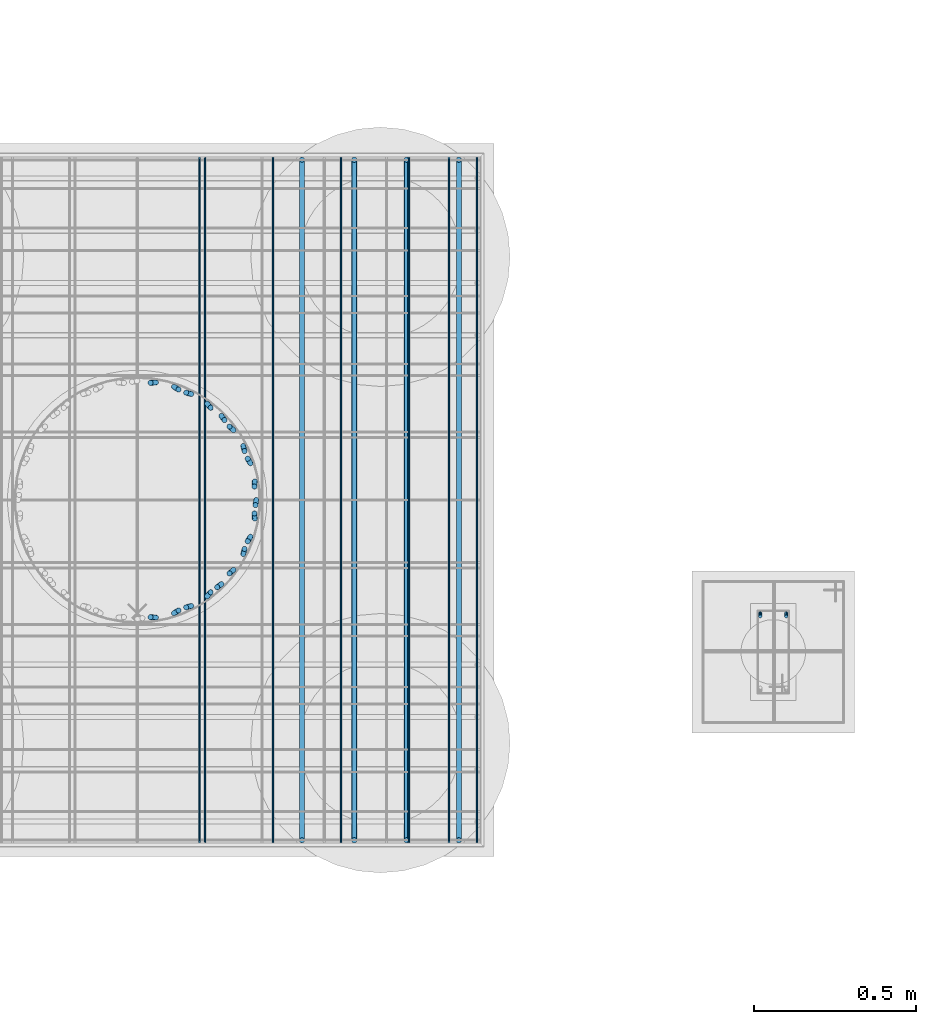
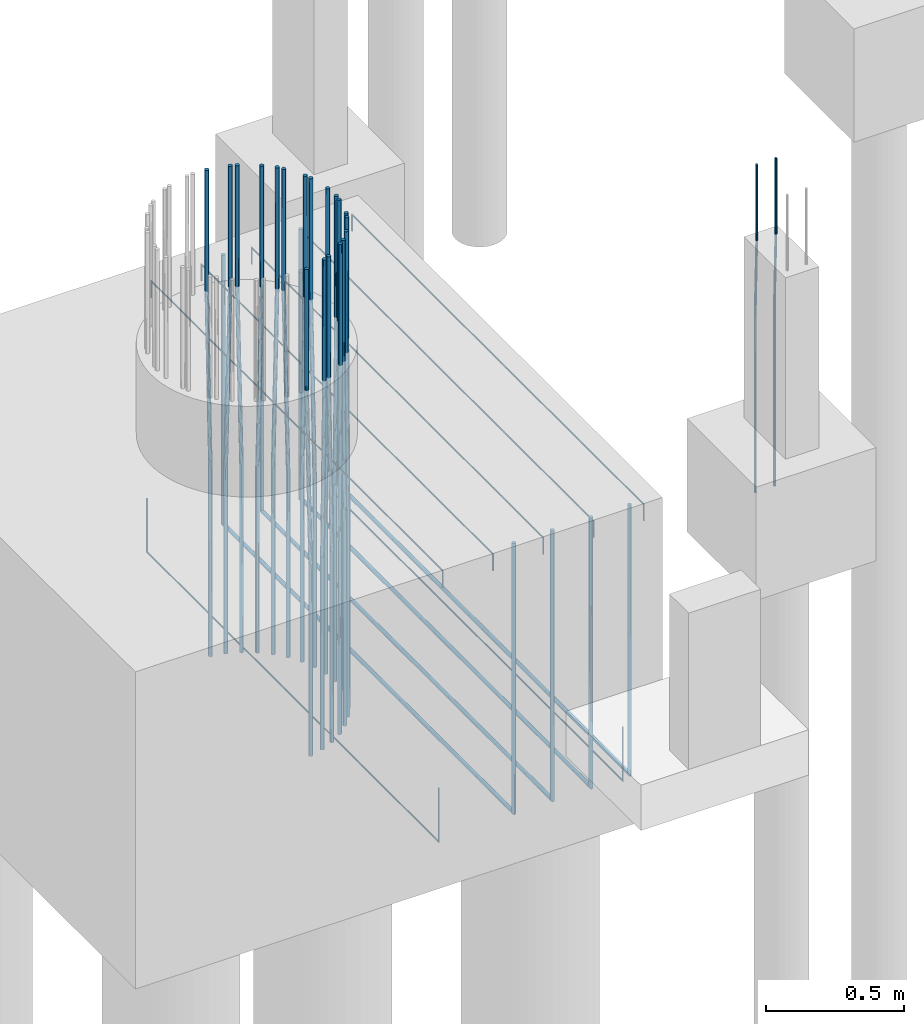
# One storey, part 15 of 119: 32 reinforcing bars.
"""IFC4 building model written with IfcOpenShell, lengths in centimetres."""

from ifc_helpers import new_model, entity, si_unit, derived_unit, frame, origin_with_axes, place, context, project, spatial, element, save


model = new_model("IFC4")

# Units and contexts
model_context = context("Model", 3, precision=1e-05, world=origin_with_axes(), identifier="Body")
ifc_project = project(units=[si_unit("LENGTHUNIT", "METRE", prefix="CENTI"), si_unit("VOLUMEUNIT", "CUBIC_METRE"), si_unit("AREAUNIT", "SQUARE_METRE"), si_unit("POWERUNIT", "WATT"), si_unit("LUMINOUSFLUXUNIT", "LUMEN"), si_unit("ELECTRICCURRENTUNIT", "AMPERE"), si_unit("PRESSUREUNIT", "PASCAL", prefix="KILO"), si_unit("MASSUNIT", "GRAM", prefix="KILO"), si_unit("PLANEANGLEUNIT", "RADIAN"), derived_unit("VOLUMETRICFLOWRATEUNIT", [(si_unit("LENGTHUNIT", "METRE"), 3), (si_unit("TIMEUNIT", "SECOND"), -1)])], contexts=[model_context])

# Site, building, storey
site_placement = place(None, frame((-4000.0, 0.0, 0.0), z_axis=(0.0, 0.0, 1.0), x_axis=(1.0, 0.0, 0.0)))
site = spatial("IfcSite", under=ifc_project, at=site_placement, Name="PADRÃO")
building_placement = place(site_placement, frame((0.0, 0.0, -14.0)))
building = spatial("IfcBuilding", under=site, at=building_placement, Name="CRECHE PRÉ-ESCOLA TIPO 2")
storey_placement = place(building_placement, origin_with_axes())
storey = spatial("IfcBuildingStorey", under=building, at=storey_placement, Name="FUNDAÇÃO", CompositionType="ELEMENT", Elevation=-14.0)

# Reinforcing bars
for number, where, z_axis, x_axis, name in (
    (1, (2404.50727272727, 229.39, -139.213841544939), (0.0, 0.0, 1.0), (1.0, 0.0, 0.0), "P151 - Blocos (distribuição)"),
    (2, (2481.41636363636, 229.39, -139.213841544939), (0.0, 0.0, 1.0), (1.0, 0.0, 0.0), "P151 - Blocos (distribuição)"),
):
    element("IfcReinforcingBar", number, at=place(storey_placement, frame(where, z_axis=z_axis, x_axis=x_axis)), inside=storey, Name=name, BarLength=0.0, CrossSectionArea=3.1172453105e-05, NominalDiameter=0.63, PredefinedType="MAIN", context=model_context, shape_type="AdvancedSweptSolid", body=[
        entity("IfcSweptDiskSolid", entity("IfcCompositeCurve", [entity("IfcCompositeCurveSegment", "CONTINUOUS", True, entity("IfcPolyline", [entity("IfcCartesianPoint", [0.0, 105.435, 0.0]), entity("IfcCartesianPoint", [0.0, 105.435, -23.7311584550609])])), entity("IfcCompositeCurveSegment", "CONTINUOUS", True, entity("IfcPolyline", [entity("IfcCartesianPoint", [0.0, 105.435, -23.7311584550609]), entity("IfcCartesianPoint", [0.0, -105.435, -23.7311584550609])])), entity("IfcCompositeCurveSegment", "CONTINUOUS", True, entity("IfcPolyline", [entity("IfcCartesianPoint", [0.0, -105.435, -23.7311584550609]), entity("IfcCartesianPoint", [0.0, -105.435, 0.0])]))], False), 0.315),
    ])
for number, where, z_axis, x_axis, name in (
    (3, (2436.08, 229.39, -42.2), (0.0, 0.0, 1.0), (1.0, 0.0, 0.0), "P151 - Blocos (principal)"),
    (4, (2452.21333333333, 229.39, -42.2), (0.0, 0.0, 1.0), (1.0, 0.0, 0.0), "P151 - Blocos (principal)"),
    (5, (2468.34666666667, 229.39, -42.2), (0.0, 0.0, 1.0), (1.0, 0.0, 0.0), "P151 - Blocos (principal)"),
    (6, (2484.48, 229.39, -42.2), (0.0, 0.0, 1.0), (1.0, 0.0, 0.0), "P151 - Blocos (principal)"),
):
    element("IfcReinforcingBar", number, at=place(storey_placement, frame(where, z_axis=z_axis, x_axis=x_axis)), inside=storey, Name=name, BarLength=0.0, CrossSectionArea=0.00020106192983, NominalDiameter=1.6, PredefinedType="MAIN", context=model_context, shape_type="AdvancedSweptSolid", body=[
        entity("IfcSweptDiskSolid", entity("IfcCompositeCurve", [entity("IfcCompositeCurveSegment", "CONTINUOUS", True, entity("IfcPolyline", [entity("IfcCartesianPoint", [0.0, 104.95, 0.0]), entity("IfcCartesianPoint", [0.0, 104.95, -119.0])])), entity("IfcCompositeCurveSegment", "CONTINUOUS", True, entity("IfcPolyline", [entity("IfcCartesianPoint", [0.0, 104.95, -119.0]), entity("IfcCartesianPoint", [0.0, -104.95, -119.0])])), entity("IfcCompositeCurveSegment", "CONTINUOUS", True, entity("IfcPolyline", [entity("IfcCartesianPoint", [0.0, -104.95, -119.0]), entity("IfcCartesianPoint", [0.0, -104.95, 0.0])]))], False), 0.8),
    ])
for number, where, z_axis, x_axis, name in (
    (7, (2490.08500030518, 229.39, -43.627046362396), (0.0, 0.0, 1.0), (1.0, 0.0, 0.0), "P151 - Blocos (superior)"),
    (8, (2469.12400177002, 229.39, -43.627046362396), (0.0, 0.0, 1.0), (1.0, 0.0, 0.0), "P151 - Blocos (superior)"),
    (9, (2448.16299942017, 229.39, -43.627046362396), (0.0, 0.0, 1.0), (1.0, 0.0, 0.0), "P151 - Blocos (superior)"),
    (10, (2427.20200088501, 229.39, -43.627046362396), (0.0, 0.0, 1.0), (1.0, 0.0, 0.0), "P151 - Blocos (superior)"),
    (11, (2406.24100044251, 229.39, -43.627046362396), (0.0, 0.0, 1.0), (1.0, 0.0, 0.0), "P151 - Blocos (superior)"),
):
    element("IfcReinforcingBar", number, at=place(storey_placement, frame(where, z_axis=z_axis, x_axis=x_axis)), inside=storey, Name=name, BarLength=0.0, CrossSectionArea=3.1172453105e-05, NominalDiameter=0.63, PredefinedType="MAIN", context=model_context, shape_type="AdvancedSweptSolid", body=[
        entity("IfcSweptDiskSolid", entity("IfcCompositeCurve", [entity("IfcCompositeCurveSegment", "CONTINUOUS", True, entity("IfcPolyline", [entity("IfcCartesianPoint", [0.0, 105.434997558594, -7.56295333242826]), entity("IfcCartesianPoint", [0.0, 105.434997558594, -0.317953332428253])])), entity("IfcCompositeCurveSegment", "CONTINUOUS", True, entity("IfcPolyline", [entity("IfcCartesianPoint", [0.0, 105.434997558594, -0.317953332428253]), entity("IfcCartesianPoint", [0.0, -105.434997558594, -0.317953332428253])])), entity("IfcCompositeCurveSegment", "CONTINUOUS", True, entity("IfcPolyline", [entity("IfcCartesianPoint", [0.0, -105.434997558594, -0.317953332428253]), entity("IfcCartesianPoint", [0.0, -105.434997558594, -7.56295333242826])]))], False), 0.315),
    ])
reinforcing_bar_1_placement = place(storey_placement, frame((2390.20647634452, 265.579178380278, 53.37168018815), z_axis=(0.0, 0.0, 1.0), x_axis=(1.0, 0.0, 0.0)))
element("IfcReinforcingBar", 12, at=reinforcing_bar_1_placement, inside=storey, Name="P151 - Longitudinal", BarLength=0.0, CrossSectionArea=0.00020106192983, NominalDiameter=1.6, PredefinedType="MAIN", context=model_context, shape_type="AdvancedSweptSolid", body=[
    entity("IfcSweptDiskSolid", entity("IfcCompositeCurve", [entity("IfcCompositeCurveSegment", "CONTINUOUS", True, entity("IfcPolyline", [entity("IfcCartesianPoint", [0.814668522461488, 0.058983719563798, -215.37168018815]), entity("IfcCartesianPoint", [0.814668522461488, 0.058983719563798, -133.37168018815])])), entity("IfcCompositeCurveSegment", "CONTINUOUS", True, entity("IfcPolyline", [entity("IfcCartesianPoint", [0.814668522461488, 0.058983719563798, -133.37168018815]), entity("IfcCartesianPoint", [-0.814668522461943, -0.058983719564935, -53.37168018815])])), entity("IfcCompositeCurveSegment", "CONTINUOUS", True, entity("IfcPolyline", [entity("IfcCartesianPoint", [-0.814668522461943, -0.058983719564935, -53.37168018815]), entity("IfcCartesianPoint", [-0.814668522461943, -0.058983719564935, 0.0])]))], False), 0.8),
])
reinforcing_bar_2_placement = place(storey_placement, frame((2397.31619634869, 263.881810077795, 53.37168018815), z_axis=(0.0, 0.0, 1.0), x_axis=(1.0, 0.0, 0.0)))
element("IfcReinforcingBar", 13, at=reinforcing_bar_2_placement, inside=storey, Name="P151 - Longitudinal", BarLength=0.0, CrossSectionArea=0.00020106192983, NominalDiameter=1.6, PredefinedType="MAIN", context=model_context, shape_type="AdvancedSweptSolid", body=[
    entity("IfcSweptDiskSolid", entity("IfcCompositeCurve", [entity("IfcCompositeCurveSegment", "CONTINUOUS", True, entity("IfcPolyline", [entity("IfcCartesianPoint", [-0.695272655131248, 0.411964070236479, -215.37168018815]), entity("IfcCartesianPoint", [-0.695272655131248, 0.411964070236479, -133.37168018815])])), entity("IfcCompositeCurveSegment", "CONTINUOUS", True, entity("IfcPolyline", [entity("IfcCartesianPoint", [-0.695272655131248, 0.411964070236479, -133.37168018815]), entity("IfcCartesianPoint", [0.695272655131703, -0.411964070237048, -53.37168018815])])), entity("IfcCompositeCurveSegment", "CONTINUOUS", True, entity("IfcPolyline", [entity("IfcCartesianPoint", [0.695272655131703, -0.411964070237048, -53.37168018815]), entity("IfcCartesianPoint", [0.695272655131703, -0.411964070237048, 0.0])]))], False), 0.8),
])
reinforcing_bar_3_placement = place(storey_placement, frame((2401.15851674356, 262.290268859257, 53.37168018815), z_axis=(0.0, 0.0, 1.0), x_axis=(1.0, 0.0, 0.0)))
element("IfcReinforcingBar", 14, at=reinforcing_bar_3_placement, inside=storey, Name="P151 - Longitudinal", BarLength=0.0, CrossSectionArea=0.00020106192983, NominalDiameter=1.6, PredefinedType="MAIN", context=model_context, shape_type="AdvancedSweptSolid", body=[
    entity("IfcSweptDiskSolid", entity("IfcCompositeCurve", [entity("IfcCompositeCurveSegment", "CONTINUOUS", True, entity("IfcPolyline", [entity("IfcCartesianPoint", [0.782934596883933, -0.200329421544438, -215.37168018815]), entity("IfcCartesianPoint", [0.782934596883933, -0.200329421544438, -133.37168018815])])), entity("IfcCompositeCurveSegment", "CONTINUOUS", True, entity("IfcPolyline", [entity("IfcCartesianPoint", [0.782934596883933, -0.200329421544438, -133.37168018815]), entity("IfcCartesianPoint", [-0.782934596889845, 0.200329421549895, -53.37168018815])])), entity("IfcCompositeCurveSegment", "CONTINUOUS", True, entity("IfcPolyline", [entity("IfcCartesianPoint", [-0.782934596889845, 0.200329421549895, -53.37168018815]), entity("IfcCartesianPoint", [-0.782934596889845, 0.200329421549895, 0.0])]))], False), 0.8),
])
reinforcing_bar_4_placement = place(storey_placement, frame((2407.38606860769, 258.463158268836, 53.37168018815), z_axis=(0.0, 0.0, 1.0), x_axis=(1.0, 0.0, 0.0)))
element("IfcReinforcingBar", 15, at=reinforcing_bar_4_placement, inside=storey, Name="P151 - Longitudinal", BarLength=0.0, CrossSectionArea=0.00020106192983, NominalDiameter=1.6, PredefinedType="MAIN", context=model_context, shape_type="AdvancedSweptSolid", body=[
    entity("IfcSweptDiskSolid", entity("IfcCompositeCurve", [entity("IfcCompositeCurveSegment", "CONTINUOUS", True, entity("IfcPolyline", [entity("IfcCartesianPoint", [-0.534349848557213, 0.617765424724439, -215.37168018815]), entity("IfcCartesianPoint", [-0.534349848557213, 0.617765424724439, -133.37168018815])])), entity("IfcCompositeCurveSegment", "CONTINUOUS", True, entity("IfcPolyline", [entity("IfcCartesianPoint", [-0.534349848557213, 0.617765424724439, -133.37168018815]), entity("IfcCartesianPoint", [0.534349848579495, -0.617765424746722, -53.37168018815])])), entity("IfcCompositeCurveSegment", "CONTINUOUS", True, entity("IfcPolyline", [entity("IfcCartesianPoint", [0.534349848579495, -0.617765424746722, -53.37168018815]), entity("IfcCartesianPoint", [0.534349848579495, -0.617765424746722, 0.0])]))], False), 0.8),
])
reinforcing_bar_5_placement = place(storey_placement, frame((2411.70662905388, 254.697542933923, 53.37168018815), z_axis=(0.0, 0.0, 1.0), x_axis=(1.0, 0.0, 0.0)))
element("IfcReinforcingBar", 16, at=reinforcing_bar_5_placement, inside=storey, Name="P151 - Longitudinal", BarLength=0.0, CrossSectionArea=0.00020106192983, NominalDiameter=1.6, PredefinedType="MAIN", context=model_context, shape_type="AdvancedSweptSolid", body=[
    entity("IfcSweptDiskSolid", entity("IfcCompositeCurve", [entity("IfcCompositeCurveSegment", "CONTINUOUS", True, entity("IfcPolyline", [entity("IfcCartesianPoint", [-0.475810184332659, 0.643275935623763, -215.37168018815]), entity("IfcCartesianPoint", [-0.475810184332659, 0.643275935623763, -133.37168018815])])), entity("IfcCompositeCurveSegment", "CONTINUOUS", True, entity("IfcPolyline", [entity("IfcCartesianPoint", [-0.475810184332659, 0.643275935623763, -133.37168018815]), entity("IfcCartesianPoint", [0.475810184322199, -0.64327593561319, -53.37168018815])])), entity("IfcCompositeCurveSegment", "CONTINUOUS", True, entity("IfcPolyline", [entity("IfcCartesianPoint", [0.475810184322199, -0.64327593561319, -53.37168018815]), entity("IfcCartesianPoint", [0.475810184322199, -0.64327593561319, 0.0])]))], False), 0.8),
])
reinforcing_bar_6_placement = place(storey_placement, frame((2414.35315826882, 251.496068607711, 53.37168018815), z_axis=(0.0, 0.0, 1.0), x_axis=(1.0, 0.0, 0.0)))
element("IfcReinforcingBar", 17, at=reinforcing_bar_6_placement, inside=storey, Name="P151 - Longitudinal", BarLength=0.0, CrossSectionArea=0.00020106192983, NominalDiameter=1.6, PredefinedType="MAIN", context=model_context, shape_type="AdvancedSweptSolid", body=[
    entity("IfcSweptDiskSolid", entity("IfcCompositeCurve", [entity("IfcCompositeCurveSegment", "CONTINUOUS", True, entity("IfcPolyline", [entity("IfcCartesianPoint", [0.617765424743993, -0.534349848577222, -215.37168018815]), entity("IfcCartesianPoint", [0.617765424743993, -0.534349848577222, -133.37168018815])])), entity("IfcCompositeCurveSegment", "CONTINUOUS", True, entity("IfcPolyline", [entity("IfcCartesianPoint", [0.617765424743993, -0.534349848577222, -133.37168018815]), entity("IfcCartesianPoint", [-0.617765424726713, 0.534349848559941, -53.37168018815])])), entity("IfcCompositeCurveSegment", "CONTINUOUS", True, entity("IfcPolyline", [entity("IfcCartesianPoint", [-0.617765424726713, 0.534349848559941, -53.37168018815]), entity("IfcCartesianPoint", [-0.617765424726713, 0.534349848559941, 0.0])]))], False), 0.8),
])
reinforcing_bar_7_placement = place(storey_placement, frame((2418.18026885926, 245.268516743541, 53.37168018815), z_axis=(0.0, 0.0, 1.0), x_axis=(1.0, 0.0, 0.0)))
element("IfcReinforcingBar", 18, at=reinforcing_bar_7_placement, inside=storey, Name="P151 - Longitudinal", BarLength=0.0, CrossSectionArea=0.00020106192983, NominalDiameter=1.6, PredefinedType="MAIN", context=model_context, shape_type="AdvancedSweptSolid", body=[
    entity("IfcSweptDiskSolid", entity("IfcCompositeCurve", [entity("IfcCompositeCurveSegment", "CONTINUOUS", True, entity("IfcPolyline", [entity("IfcCartesianPoint", [-0.200329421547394, 0.782934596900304, -215.37168018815]), entity("IfcCartesianPoint", [-0.200329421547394, 0.782934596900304, -133.37168018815])])), entity("IfcCompositeCurveSegment", "CONTINUOUS", True, entity("IfcPolyline", [entity("IfcCartesianPoint", [-0.200329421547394, 0.782934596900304, -133.37168018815]), entity("IfcCartesianPoint", [0.20032942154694, -0.782934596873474, -53.37168018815])])), entity("IfcCompositeCurveSegment", "CONTINUOUS", True, entity("IfcPolyline", [entity("IfcCartesianPoint", [0.20032942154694, -0.782934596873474, -53.37168018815]), entity("IfcCartesianPoint", [0.20032942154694, -0.782934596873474, 0.0])]))], False), 0.8),
])
reinforcing_bar_8_placement = place(storey_placement, frame((2419.7718100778, 241.426196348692, 53.37168018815), z_axis=(0.0, 0.0, 1.0), x_axis=(1.0, 0.0, 0.0)))
element("IfcReinforcingBar", 19, at=reinforcing_bar_8_placement, inside=storey, Name="P151 - Longitudinal", BarLength=0.0, CrossSectionArea=0.00020106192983, NominalDiameter=1.6, PredefinedType="MAIN", context=model_context, shape_type="AdvancedSweptSolid", body=[
    entity("IfcSweptDiskSolid", entity("IfcCompositeCurve", [entity("IfcCompositeCurveSegment", "CONTINUOUS", True, entity("IfcPolyline", [entity("IfcCartesianPoint", [0.411964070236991, -0.695272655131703, -215.37168018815]), entity("IfcCartesianPoint", [0.411964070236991, -0.695272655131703, -133.37168018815])])), entity("IfcCompositeCurveSegment", "CONTINUOUS", True, entity("IfcPolyline", [entity("IfcCartesianPoint", [0.411964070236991, -0.695272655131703, -133.37168018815]), entity("IfcCartesianPoint", [-0.411964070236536, 0.695272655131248, -53.37168018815])])), entity("IfcCompositeCurveSegment", "CONTINUOUS", True, entity("IfcPolyline", [entity("IfcCartesianPoint", [-0.411964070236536, 0.695272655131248, -53.37168018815]), entity("IfcCartesianPoint", [-0.411964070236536, 0.695272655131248, 0.0])]))], False), 0.8),
])
reinforcing_bar_9_placement = place(storey_placement, frame((2421.46917838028, 234.316476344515, 53.37168018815), z_axis=(0.0, 0.0, 1.0), x_axis=(1.0, 0.0, 0.0)))
element("IfcReinforcingBar", 20, at=reinforcing_bar_9_placement, inside=storey, Name="P151 - Longitudinal", BarLength=0.0, CrossSectionArea=0.00020106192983, NominalDiameter=1.6, PredefinedType="MAIN", context=model_context, shape_type="AdvancedSweptSolid", body=[
    entity("IfcSweptDiskSolid", entity("IfcCompositeCurve", [entity("IfcCompositeCurveSegment", "CONTINUOUS", True, entity("IfcPolyline", [entity("IfcCartesianPoint", [0.058983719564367, 0.814668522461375, -215.37168018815]), entity("IfcCartesianPoint", [0.058983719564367, 0.814668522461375, -133.37168018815])])), entity("IfcCompositeCurveSegment", "CONTINUOUS", True, entity("IfcPolyline", [entity("IfcCartesianPoint", [0.058983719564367, 0.814668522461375, -133.37168018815]), entity("IfcCartesianPoint", [-0.058983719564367, -0.814668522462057, -53.37168018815])])), entity("IfcCompositeCurveSegment", "CONTINUOUS", True, entity("IfcPolyline", [entity("IfcCartesianPoint", [-0.058983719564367, -0.814668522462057, -53.37168018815]), entity("IfcCartesianPoint", [-0.058983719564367, -0.814668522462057, 0.0])]))], False), 0.8),
])
reinforcing_bar_10_placement = place(storey_placement, frame((2421.86158383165, 228.598686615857, 53.37168018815), z_axis=(0.0, 0.0, 1.0), x_axis=(1.0, 0.0, 0.0)))
element("IfcReinforcingBar", 21, at=reinforcing_bar_10_placement, inside=storey, Name="P151 - Longitudinal", BarLength=0.0, CrossSectionArea=0.00020106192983, NominalDiameter=1.6, PredefinedType="MAIN", context=model_context, shape_type="AdvancedSweptSolid", body=[
    entity("IfcSweptDiskSolid", entity("IfcCompositeCurve", [entity("IfcCompositeCurveSegment", "CONTINUOUS", True, entity("IfcPolyline", [entity("IfcCartesianPoint", [0.118416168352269, 0.79131338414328, -215.37168018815]), entity("IfcCartesianPoint", [0.118416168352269, 0.79131338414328, -133.37168018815])])), entity("IfcCompositeCurveSegment", "CONTINUOUS", True, entity("IfcPolyline", [entity("IfcCartesianPoint", [0.118416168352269, 0.79131338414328, -133.37168018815]), entity("IfcCartesianPoint", [-0.118416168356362, -0.791313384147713, -53.37168018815])])), entity("IfcCompositeCurveSegment", "CONTINUOUS", True, entity("IfcPolyline", [entity("IfcCartesianPoint", [-0.118416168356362, -0.791313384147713, -53.37168018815]), entity("IfcCartesianPoint", [-0.118416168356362, -0.791313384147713, 0.0])]))], False), 0.8),
])
reinforcing_bar_11_placement = place(storey_placement, frame((2421.46917838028, 224.463523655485, 53.37168018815), z_axis=(0.0, 0.0, 1.0), x_axis=(1.0, 0.0, 0.0)))
element("IfcReinforcingBar", 22, at=reinforcing_bar_11_placement, inside=storey, Name="P151 - Longitudinal", BarLength=0.0, CrossSectionArea=0.00020106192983, NominalDiameter=1.6, PredefinedType="MAIN", context=model_context, shape_type="AdvancedSweptSolid", body=[
    entity("IfcSweptDiskSolid", entity("IfcCompositeCurve", [entity("IfcCompositeCurveSegment", "CONTINUOUS", True, entity("IfcPolyline", [entity("IfcCartesianPoint", [0.058983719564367, -0.814668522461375, -215.37168018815]), entity("IfcCartesianPoint", [0.058983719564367, -0.814668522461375, -133.37168018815])])), entity("IfcCompositeCurveSegment", "CONTINUOUS", True, entity("IfcPolyline", [entity("IfcCartesianPoint", [0.058983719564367, -0.814668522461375, -133.37168018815]), entity("IfcCartesianPoint", [-0.058983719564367, 0.814668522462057, -53.37168018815])])), entity("IfcCompositeCurveSegment", "CONTINUOUS", True, entity("IfcPolyline", [entity("IfcCartesianPoint", [-0.058983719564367, 0.814668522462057, -53.37168018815]), entity("IfcCartesianPoint", [-0.058983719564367, 0.814668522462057, 0.0])]))], False), 0.8),
])
reinforcing_bar_12_placement = place(storey_placement, frame((2419.7718100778, 217.353803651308, 53.37168018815), z_axis=(0.0, 0.0, 1.0), x_axis=(1.0, 0.0, 0.0)))
element("IfcReinforcingBar", 23, at=reinforcing_bar_12_placement, inside=storey, Name="P151 - Longitudinal", BarLength=0.0, CrossSectionArea=0.00020106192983, NominalDiameter=1.6, PredefinedType="MAIN", context=model_context, shape_type="AdvancedSweptSolid", body=[
    entity("IfcSweptDiskSolid", entity("IfcCompositeCurve", [entity("IfcCompositeCurveSegment", "CONTINUOUS", True, entity("IfcPolyline", [entity("IfcCartesianPoint", [0.411964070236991, 0.695272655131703, -215.37168018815]), entity("IfcCartesianPoint", [0.411964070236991, 0.695272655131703, -133.37168018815])])), entity("IfcCompositeCurveSegment", "CONTINUOUS", True, entity("IfcPolyline", [entity("IfcCartesianPoint", [0.411964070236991, 0.695272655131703, -133.37168018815]), entity("IfcCartesianPoint", [-0.411964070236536, -0.695272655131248, -53.37168018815])])), entity("IfcCompositeCurveSegment", "CONTINUOUS", True, entity("IfcPolyline", [entity("IfcCartesianPoint", [-0.411964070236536, -0.695272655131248, -53.37168018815]), entity("IfcCartesianPoint", [-0.411964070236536, -0.695272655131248, 0.0])]))], False), 0.8),
])
reinforcing_bar_13_placement = place(storey_placement, frame((2418.18026885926, 213.511483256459, 53.37168018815), z_axis=(0.0, 0.0, 1.0), x_axis=(1.0, 0.0, 0.0)))
element("IfcReinforcingBar", 24, at=reinforcing_bar_13_placement, inside=storey, Name="P151 - Longitudinal", BarLength=0.0, CrossSectionArea=0.00020106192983, NominalDiameter=1.6, PredefinedType="MAIN", context=model_context, shape_type="AdvancedSweptSolid", body=[
    entity("IfcSweptDiskSolid", entity("IfcCompositeCurve", [entity("IfcCompositeCurveSegment", "CONTINUOUS", True, entity("IfcPolyline", [entity("IfcCartesianPoint", [-0.200329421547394, -0.782934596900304, -215.37168018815]), entity("IfcCartesianPoint", [-0.200329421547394, -0.782934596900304, -133.37168018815])])), entity("IfcCompositeCurveSegment", "CONTINUOUS", True, entity("IfcPolyline", [entity("IfcCartesianPoint", [-0.200329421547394, -0.782934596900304, -133.37168018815]), entity("IfcCartesianPoint", [0.20032942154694, 0.782934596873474, -53.37168018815])])), entity("IfcCompositeCurveSegment", "CONTINUOUS", True, entity("IfcPolyline", [entity("IfcCartesianPoint", [0.20032942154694, 0.782934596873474, -53.37168018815]), entity("IfcCartesianPoint", [0.20032942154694, 0.782934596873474, 0.0])]))], False), 0.8),
])
reinforcing_bar_14_placement = place(storey_placement, frame((2414.35315826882, 207.283931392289, 53.37168018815), z_axis=(0.0, 0.0, 1.0), x_axis=(1.0, 0.0, 0.0)))
element("IfcReinforcingBar", 25, at=reinforcing_bar_14_placement, inside=storey, Name="P151 - Longitudinal", BarLength=0.0, CrossSectionArea=0.00020106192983, NominalDiameter=1.6, PredefinedType="MAIN", context=model_context, shape_type="AdvancedSweptSolid", body=[
    entity("IfcSweptDiskSolid", entity("IfcCompositeCurve", [entity("IfcCompositeCurveSegment", "CONTINUOUS", True, entity("IfcPolyline", [entity("IfcCartesianPoint", [0.617765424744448, 0.534349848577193, -215.37168018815]), entity("IfcCartesianPoint", [0.617765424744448, 0.534349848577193, -133.37168018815])])), entity("IfcCompositeCurveSegment", "CONTINUOUS", True, entity("IfcPolyline", [entity("IfcCartesianPoint", [0.617765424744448, 0.534349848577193, -133.37168018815]), entity("IfcCartesianPoint", [-0.617765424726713, -0.53434984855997, -53.37168018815])])), entity("IfcCompositeCurveSegment", "CONTINUOUS", True, entity("IfcPolyline", [entity("IfcCartesianPoint", [-0.617765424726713, -0.53434984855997, -53.37168018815]), entity("IfcCartesianPoint", [-0.617765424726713, -0.53434984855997, 0.0])]))], False), 0.8),
])
reinforcing_bar_15_placement = place(storey_placement, frame((2410.58754293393, 202.963370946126, 53.37168018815), z_axis=(0.0, 0.0, 1.0), x_axis=(1.0, 0.0, 0.0)))
element("IfcReinforcingBar", 26, at=reinforcing_bar_15_placement, inside=storey, Name="P151 - Longitudinal", BarLength=0.0, CrossSectionArea=0.00020106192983, NominalDiameter=1.6, PredefinedType="MAIN", context=model_context, shape_type="AdvancedSweptSolid", body=[
    entity("IfcSweptDiskSolid", entity("IfcCompositeCurve", [entity("IfcCompositeCurveSegment", "CONTINUOUS", True, entity("IfcPolyline", [entity("IfcCartesianPoint", [0.643275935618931, 0.475810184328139, -215.37168018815]), entity("IfcCartesianPoint", [0.643275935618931, 0.475810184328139, -133.37168018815])])), entity("IfcCompositeCurveSegment", "CONTINUOUS", True, entity("IfcPolyline", [entity("IfcCartesianPoint", [0.643275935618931, 0.475810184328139, -133.37168018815]), entity("IfcCartesianPoint", [-0.643275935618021, -0.475810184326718, -53.37168018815])])), entity("IfcCompositeCurveSegment", "CONTINUOUS", True, entity("IfcPolyline", [entity("IfcCartesianPoint", [-0.643275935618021, -0.475810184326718, -53.37168018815]), entity("IfcCartesianPoint", [-0.643275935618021, -0.475810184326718, 0.0])]))], False), 0.8),
])
reinforcing_bar_16_placement = place(storey_placement, frame((2407.38606860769, 200.316841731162, 53.37168018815), z_axis=(0.0, 0.0, 1.0), x_axis=(1.0, 0.0, 0.0)))
element("IfcReinforcingBar", 27, at=reinforcing_bar_16_placement, inside=storey, Name="P151 - Longitudinal", BarLength=0.0, CrossSectionArea=0.00020106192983, NominalDiameter=1.6, PredefinedType="MAIN", context=model_context, shape_type="AdvancedSweptSolid", body=[
    entity("IfcSweptDiskSolid", entity("IfcCompositeCurve", [entity("IfcCompositeCurveSegment", "CONTINUOUS", True, entity("IfcPolyline", [entity("IfcCartesianPoint", [-0.534349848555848, -0.617765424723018, -215.37168018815]), entity("IfcCartesianPoint", [-0.534349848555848, -0.617765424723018, -133.37168018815])])), entity("IfcCompositeCurveSegment", "CONTINUOUS", True, entity("IfcPolyline", [entity("IfcCartesianPoint", [-0.534349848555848, -0.617765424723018, -133.37168018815]), entity("IfcCartesianPoint", [0.53434984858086, 0.617765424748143, -53.37168018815])])), entity("IfcCompositeCurveSegment", "CONTINUOUS", True, entity("IfcPolyline", [entity("IfcCartesianPoint", [0.53434984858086, 0.617765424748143, -53.37168018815]), entity("IfcCartesianPoint", [0.53434984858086, 0.617765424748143, 0.0])]))], False), 0.8),
])
reinforcing_bar_17_placement = place(storey_placement, frame((2401.15851674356, 196.489731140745, 53.37168018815), z_axis=(0.0, 0.0, 1.0), x_axis=(1.0, 0.0, 0.0)))
element("IfcReinforcingBar", 28, at=reinforcing_bar_17_placement, inside=storey, Name="P151 - Longitudinal", BarLength=0.0, CrossSectionArea=0.00020106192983, NominalDiameter=1.6, PredefinedType="MAIN", context=model_context, shape_type="AdvancedSweptSolid", body=[
    entity("IfcSweptDiskSolid", entity("IfcCompositeCurve", [entity("IfcCompositeCurveSegment", "CONTINUOUS", True, entity("IfcPolyline", [entity("IfcCartesianPoint", [0.782934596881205, 0.200329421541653, -215.37168018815]), entity("IfcCartesianPoint", [0.782934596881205, 0.200329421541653, -133.37168018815])])), entity("IfcCompositeCurveSegment", "CONTINUOUS", True, entity("IfcPolyline", [entity("IfcCartesianPoint", [0.782934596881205, 0.200329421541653, -133.37168018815]), entity("IfcCartesianPoint", [-0.782934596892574, -0.200329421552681, -53.37168018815])])), entity("IfcCompositeCurveSegment", "CONTINUOUS", True, entity("IfcPolyline", [entity("IfcCartesianPoint", [-0.782934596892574, -0.200329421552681, -53.37168018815]), entity("IfcCartesianPoint", [-0.782934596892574, -0.200329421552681, 0.0])]))], False), 0.8),
])
reinforcing_bar_18_placement = place(storey_placement, frame((2390.20647634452, 193.200821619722, 53.37168018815), z_axis=(0.0, 0.0, 1.0), x_axis=(1.0, 0.0, 0.0)))
element("IfcReinforcingBar", 29, at=reinforcing_bar_18_placement, inside=storey, Name="P151 - Longitudinal", BarLength=0.0, CrossSectionArea=0.00020106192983, NominalDiameter=1.6, PredefinedType="MAIN", context=model_context, shape_type="AdvancedSweptSolid", body=[
    entity("IfcSweptDiskSolid", entity("IfcCompositeCurve", [entity("IfcCompositeCurveSegment", "CONTINUOUS", True, entity("IfcPolyline", [entity("IfcCartesianPoint", [0.814668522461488, -0.058983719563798, -215.37168018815]), entity("IfcCartesianPoint", [0.814668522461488, -0.058983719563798, -133.37168018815])])), entity("IfcCompositeCurveSegment", "CONTINUOUS", True, entity("IfcPolyline", [entity("IfcCartesianPoint", [0.814668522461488, -0.058983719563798, -133.37168018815]), entity("IfcCartesianPoint", [-0.814668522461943, 0.058983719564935, -53.37168018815])])), entity("IfcCompositeCurveSegment", "CONTINUOUS", True, entity("IfcPolyline", [entity("IfcCartesianPoint", [-0.814668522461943, 0.058983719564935, -53.37168018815]), entity("IfcCartesianPoint", [-0.814668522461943, 0.058983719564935, 0.0])]))], False), 0.8),
])
reinforcing_bar_19_placement = place(storey_placement, frame((2397.31619634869, 194.898189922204, 53.37168018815), z_axis=(0.0, 0.0, 1.0), x_axis=(1.0, 0.0, 0.0)))
element("IfcReinforcingBar", 30, at=reinforcing_bar_19_placement, inside=storey, Name="P151 - Longitudinal", BarLength=0.0, CrossSectionArea=0.00020106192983, NominalDiameter=1.6, PredefinedType="MAIN", context=model_context, shape_type="AdvancedSweptSolid", body=[
    entity("IfcSweptDiskSolid", entity("IfcCompositeCurve", [entity("IfcCompositeCurveSegment", "CONTINUOUS", True, entity("IfcPolyline", [entity("IfcCartesianPoint", [-0.695272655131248, -0.411964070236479, -215.37168018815]), entity("IfcCartesianPoint", [-0.695272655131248, -0.411964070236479, -133.37168018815])])), entity("IfcCompositeCurveSegment", "CONTINUOUS", True, entity("IfcPolyline", [entity("IfcCartesianPoint", [-0.695272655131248, -0.411964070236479, -133.37168018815]), entity("IfcCartesianPoint", [0.695272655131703, 0.411964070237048, -53.37168018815])])), entity("IfcCompositeCurveSegment", "CONTINUOUS", True, entity("IfcPolyline", [entity("IfcCartesianPoint", [0.695272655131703, 0.411964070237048, -53.37168018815]), entity("IfcCartesianPoint", [0.695272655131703, 0.411964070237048, 0.0])]))], False), 0.8),
])
for number, where, z_axis, x_axis, name in (
    (31, (2585.46, 194.0, 33.3573001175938), (0.0, 0.0, 1.0), (1.0, 0.0, 0.0), "P152 - Longitudinal"),
    (32, (2577.46, 194.0, 33.3573001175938), (0.0, 0.0, 1.0), (1.0, 0.0, 0.0), "P152 - Longitudinal"),
):
    element("IfcReinforcingBar", number, at=place(storey_placement, frame(where, z_axis=z_axis, x_axis=x_axis)), inside=storey, Name=name, BarLength=0.0, CrossSectionArea=7.853981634e-05, NominalDiameter=1.0, PredefinedType="MAIN", context=model_context, shape_type="AdvancedSweptSolid", body=[
        entity("IfcSweptDiskSolid", entity("IfcCompositeCurve", [entity("IfcCompositeCurveSegment", "CONTINUOUS", True, entity("IfcPolyline", [entity("IfcCartesianPoint", [0.0, 0.5, -145.357300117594]), entity("IfcCartesianPoint", [0.0, 0.5, -63.3573001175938])])), entity("IfcCompositeCurveSegment", "CONTINUOUS", True, entity("IfcPolyline", [entity("IfcCartesianPoint", [0.0, 0.5, -63.3573001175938]), entity("IfcCartesianPoint", [0.0, -0.5, -33.3573001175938])])), entity("IfcCompositeCurveSegment", "CONTINUOUS", True, entity("IfcPolyline", [entity("IfcCartesianPoint", [0.0, -0.5, -33.3573001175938]), entity("IfcCartesianPoint", [0.0, -0.5, 0.0])]))], False), 0.5),
    ])

save(model, "model.ifc")
